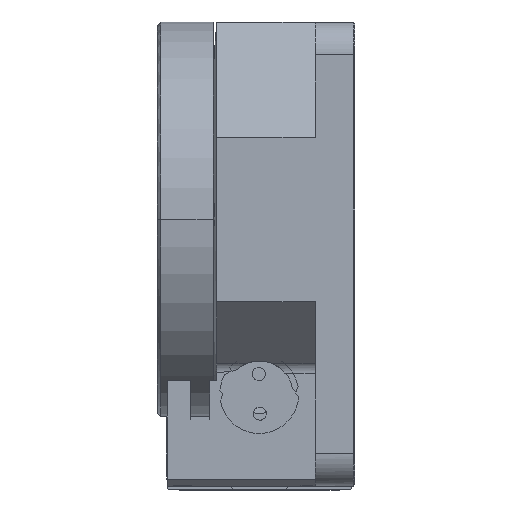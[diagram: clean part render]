
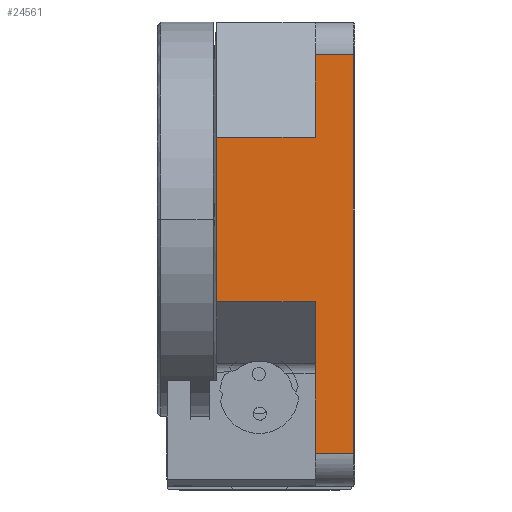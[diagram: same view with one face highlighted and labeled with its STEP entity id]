
A CAD part, left-side view. The second image highlights one B-rep face of the part: STEP entity #24561.
In plain terms, the highlighted planar face has unit normal (-1, 0, 0).
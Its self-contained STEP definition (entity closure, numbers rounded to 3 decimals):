
#48 = PLANE ( 'NONE',  #15641 ) ;
#2490 = ORIENTED_EDGE ( 'NONE', *, *, #28151, .F. ) ;
#2855 = VERTEX_POINT ( 'NONE', #17408 ) ;
#3429 = CARTESIAN_POINT ( 'NONE',  ( -30., 6., -35.5 ) ) ;
#4375 = ORIENTED_EDGE ( 'NONE', *, *, #31827, .F. ) ;
#4684 = B_SPLINE_CURVE_WITH_KNOTS ( 'NONE', 3,
 ( #14976, #34582, #23923, #12238 ),
 .UNSPECIFIED., .F., .F.,
 ( 4, 4 ),
 ( 0., 1. ),
 .UNSPECIFIED. ) ;
#5754 = DIRECTION ( 'NONE',  ( 1., 0., 0. ) ) ;
#6324 = VERTEX_POINT ( 'NONE', #19380 ) ;
#6335 = B_SPLINE_CURVE_WITH_KNOTS ( 'NONE', 3,
 ( #11127, #24484, #25032, #30169 ),
 .UNSPECIFIED., .F., .F.,
 ( 4, 4 ),
 ( 0., 1. ),
 .UNSPECIFIED. ) ;
#6857 = CARTESIAN_POINT ( 'NONE',  ( -30., 6., -35.5 ) ) ;
#8705 = EDGE_CURVE ( 'NONE', #6324, #9857, #36137, .T. ) ;
#9097 = CARTESIAN_POINT ( 'NONE',  ( -30., 6., -35.5 ) ) ;
#9287 = VERTEX_POINT ( 'NONE', #17009 ) ;
#9623 = CARTESIAN_POINT ( 'NONE',  ( -30., 21., -12.5 ) ) ;
#9857 = VERTEX_POINT ( 'NONE', #10701 ) ;
#10324 = CARTESIAN_POINT ( 'NONE',  ( -30., 21., 12.5 ) ) ;
#10678 = CARTESIAN_POINT ( 'NONE',  ( -30., 16., 12.5 ) ) ;
#10701 = CARTESIAN_POINT ( 'NONE',  ( -30., 21., -12.5 ) ) ;
#10835 = CARTESIAN_POINT ( 'NONE',  ( -30., 6., -12.5 ) ) ;
#11127 = CARTESIAN_POINT ( 'NONE',  ( -30., 6., 25. ) ) ;
#11169 = CARTESIAN_POINT ( 'NONE',  ( -30., 6., -12.5 ) ) ;
#11308 = ORIENTED_EDGE ( 'NONE', *, *, #31916, .F. ) ;
#12238 = CARTESIAN_POINT ( 'NONE',  ( -30., 6., 25. ) ) ;
#12426 = ORIENTED_EDGE ( 'NONE', *, *, #27945, .T. ) ;
#12450 = CARTESIAN_POINT ( 'NONE',  ( -30., 6., 25. ) ) ;
#13847 = CARTESIAN_POINT ( 'NONE',  ( -30., 21., 30. ) ) ;
#14596 = ORIENTED_EDGE ( 'NONE', *, *, #17896, .F. ) ;
#14937 = CARTESIAN_POINT ( 'NONE',  ( -30., 21., -4.167 ) ) ;
#14976 = CARTESIAN_POINT ( 'NONE',  ( -30., 6., 12.5 ) ) ;
#15399 = VERTEX_POINT ( 'NONE', #27579 ) ;
#15641 = AXIS2_PLACEMENT_3D ( 'NONE', #13847, #5754, #25000 ) ;
#16577 = ORIENTED_EDGE ( 'NONE', *, *, #26327, .F. ) ;
#17009 = CARTESIAN_POINT ( 'NONE',  ( -30., 0.2, -35.5 ) ) ;
#17022 = CARTESIAN_POINT ( 'NONE',  ( -30., 2.133, -35.5 ) ) ;
#17273 = CARTESIAN_POINT ( 'NONE',  ( -30., 0.2, -15.333 ) ) ;
#17381 = CARTESIAN_POINT ( 'NONE',  ( -30., 4.067, -35.5 ) ) ;
#17408 = CARTESIAN_POINT ( 'NONE',  ( -30., 6., 12.5 ) ) ;
#17896 = EDGE_CURVE ( 'NONE', #2855, #33830, #4684, .T. ) ;
#18318 = ORIENTED_EDGE ( 'NONE', *, *, #8705, .T. ) ;
#18579 = CARTESIAN_POINT ( 'NONE',  ( -30., 6., -20.167 ) ) ;
#18758 = CARTESIAN_POINT ( 'NONE',  ( -30., 6., -27.833 ) ) ;
#19380 = CARTESIAN_POINT ( 'NONE',  ( -30., 21., 12.5 ) ) ;
#20253 = CARTESIAN_POINT ( 'NONE',  ( -30., 21., 12.5 ) ) ;
#20367 = EDGE_LOOP ( 'NONE', ( #2490, #30540, #14596, #16577, #18318, #4375, #12426, #11308 ) ) ;
#21324 = CARTESIAN_POINT ( 'NONE',  ( -30., 6., -12.5 ) ) ;
#22099 = EDGE_CURVE ( 'NONE', #33830, #15399, #6335, .T. ) ;
#22332 = CARTESIAN_POINT ( 'NONE',  ( -30., 16., -12.5 ) ) ;
#23532 = CARTESIAN_POINT ( 'NONE',  ( -30., 21., 4.167 ) ) ;
#23611 = B_SPLINE_CURVE_WITH_KNOTS ( 'NONE', 3,
 ( #11169, #24526, #22332, #33520 ),
 .UNSPECIFIED., .F., .F.,
 ( 4, 4 ),
 ( 0., 1. ),
 .UNSPECIFIED. ) ;
#23883 = B_SPLINE_CURVE_WITH_KNOTS ( 'NONE', 3,
 ( #28784, #25679, #17273, #26035 ),
 .UNSPECIFIED., .F., .F.,
 ( 4, 4 ),
 ( 0., 1. ),
 .UNSPECIFIED. ) ;
#23923 = CARTESIAN_POINT ( 'NONE',  ( -30., 6., 20.833 ) ) ;
#24436 = B_SPLINE_CURVE_WITH_KNOTS ( 'NONE', 3,
 ( #10324, #10678, #27327, #35602 ),
 .UNSPECIFIED., .F., .F.,
 ( 4, 4 ),
 ( 0., 1. ),
 .UNSPECIFIED. ) ;
#24484 = CARTESIAN_POINT ( 'NONE',  ( -30., 4.067, 25. ) ) ;
#24526 = CARTESIAN_POINT ( 'NONE',  ( -30., 11., -12.5 ) ) ;
#24561 = ADVANCED_FACE ( 'NONE', ( #27731 ), #48, .F. ) ;
#25000 = DIRECTION ( 'NONE',  ( 0., 1., 0. ) ) ;
#25032 = CARTESIAN_POINT ( 'NONE',  ( -30., 2.133, 25. ) ) ;
#25244 = B_SPLINE_CURVE_WITH_KNOTS ( 'NONE', 3,
 ( #21324, #18579, #18758, #6857 ),
 .UNSPECIFIED., .F., .F.,
 ( 4, 4 ),
 ( 0., 1. ),
 .UNSPECIFIED. ) ;
#25679 = CARTESIAN_POINT ( 'NONE',  ( -30., 0.2, 4.833 ) ) ;
#26035 = CARTESIAN_POINT ( 'NONE',  ( -30., 0.2, -35.5 ) ) ;
#26202 = B_SPLINE_CURVE_WITH_KNOTS ( 'NONE', 3,
 ( #31306, #17022, #17381, #3429 ),
 .UNSPECIFIED., .F., .F.,
 ( 4, 4 ),
 ( 0., 1. ),
 .UNSPECIFIED. ) ;
#26327 = EDGE_CURVE ( 'NONE', #6324, #2855, #24436, .T. ) ;
#27327 = CARTESIAN_POINT ( 'NONE',  ( -30., 11., 12.5 ) ) ;
#27579 = CARTESIAN_POINT ( 'NONE',  ( -30., 0.2, 25. ) ) ;
#27731 = FACE_OUTER_BOUND ( 'NONE', #20367, .T. ) ;
#27945 = EDGE_CURVE ( 'NONE', #28288, #34867, #25244, .T. ) ;
#28151 = EDGE_CURVE ( 'NONE', #15399, #9287, #23883, .T. ) ;
#28288 = VERTEX_POINT ( 'NONE', #10835 ) ;
#28784 = CARTESIAN_POINT ( 'NONE',  ( -30., 0.2, 25. ) ) ;
#30169 = CARTESIAN_POINT ( 'NONE',  ( -30., 0.2, 25. ) ) ;
#30540 = ORIENTED_EDGE ( 'NONE', *, *, #22099, .F. ) ;
#31306 = CARTESIAN_POINT ( 'NONE',  ( -30., 0.2, -35.5 ) ) ;
#31827 = EDGE_CURVE ( 'NONE', #28288, #9857, #23611, .T. ) ;
#31916 = EDGE_CURVE ( 'NONE', #9287, #34867, #26202, .T. ) ;
#33520 = CARTESIAN_POINT ( 'NONE',  ( -30., 21., -12.5 ) ) ;
#33830 = VERTEX_POINT ( 'NONE', #12450 ) ;
#34582 = CARTESIAN_POINT ( 'NONE',  ( -30., 6., 16.667 ) ) ;
#34867 = VERTEX_POINT ( 'NONE', #9097 ) ;
#35602 = CARTESIAN_POINT ( 'NONE',  ( -30., 6., 12.5 ) ) ;
#36137 = B_SPLINE_CURVE_WITH_KNOTS ( 'NONE', 3,
 ( #20253, #23532, #14937, #9623 ),
 .UNSPECIFIED., .F., .F.,
 ( 4, 4 ),
 ( 0., 1. ),
 .UNSPECIFIED. ) ;
